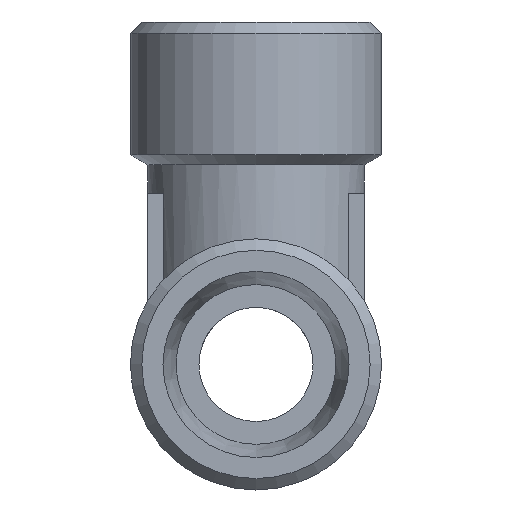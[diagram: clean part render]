
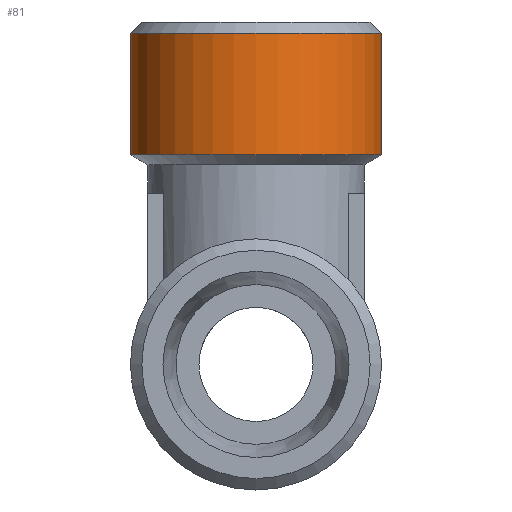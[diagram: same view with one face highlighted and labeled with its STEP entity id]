
A CAD part, left-side view. The second image highlights one B-rep face of the part: STEP entity #81.
In plain terms, the highlighted cylindrical face has radius 11 mm (diameter 22 mm), a full revolution.
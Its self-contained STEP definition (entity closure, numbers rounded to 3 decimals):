
#81 = ADVANCED_FACE( '', ( #202, #203 ), #204, .T. );
#202 = FACE_OUTER_BOUND( '', #383, .T. );
#203 = FACE_OUTER_BOUND( '', #384, .T. );
#204 = CYLINDRICAL_SURFACE( '', #385, 11. );
#383 = EDGE_LOOP( '', ( #572 ) );
#384 = EDGE_LOOP( '', ( #573 ) );
#385 = AXIS2_PLACEMENT_3D( '', #574, #575, #576 );
#572 = ORIENTED_EDGE( '', *, *, #931, .T. );
#573 = ORIENTED_EDGE( '', *, *, #932, .F. );
#574 = CARTESIAN_POINT( '', ( 0., 0., 54. ) );
#575 = DIRECTION( '', ( 0., 0., 1. ) );
#576 = DIRECTION( '', ( -1., 0., 0. ) );
#931 = EDGE_CURVE( '', #1078, #1078, #1079, .F. );
#932 = EDGE_CURVE( '', #1080, #1080, #1081, .T. );
#1078 = VERTEX_POINT( '', #1284 );
#1079 = CIRCLE( '', #1285, 11. );
#1080 = VERTEX_POINT( '', #1286 );
#1081 = CIRCLE( '', #1287, 11. );
#1284 = CARTESIAN_POINT( '', ( 11., 0., 29. ) );
#1285 = AXIS2_PLACEMENT_3D( '', #1525, #1526, #1527 );
#1286 = CARTESIAN_POINT( '', ( -11., 0., 18.366 ) );
#1287 = AXIS2_PLACEMENT_3D( '', #1528, #1529, #1530 );
#1525 = CARTESIAN_POINT( '', ( 0., 0., 29. ) );
#1526 = DIRECTION( '', ( 0., 0., 1. ) );
#1527 = DIRECTION( '', ( 1., 0., 0. ) );
#1528 = CARTESIAN_POINT( '', ( 0., 0., 18.366 ) );
#1529 = DIRECTION( '', ( 0., 0., -1. ) );
#1530 = DIRECTION( '', ( -1., 0., 0. ) );
